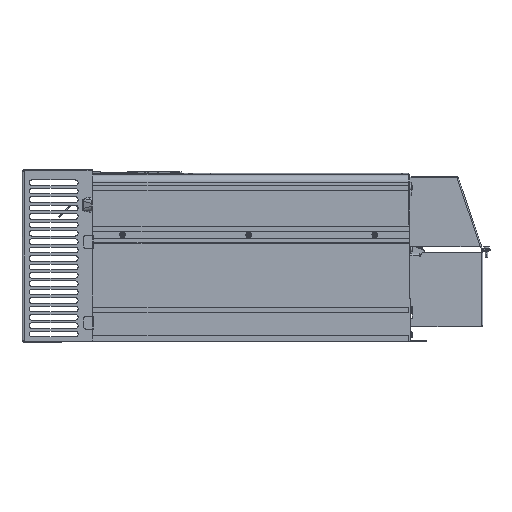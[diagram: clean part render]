
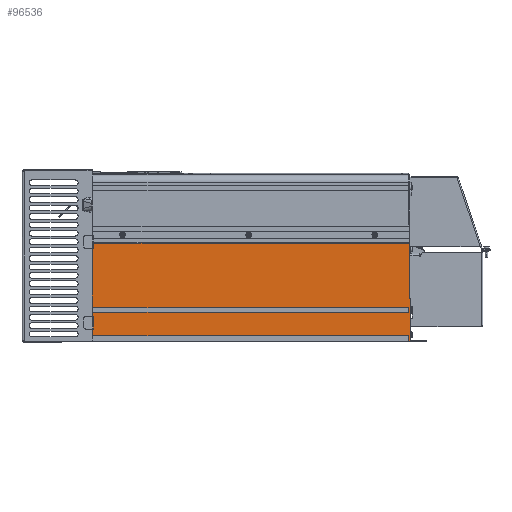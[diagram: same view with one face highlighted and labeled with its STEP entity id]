
A CAD part, left-side view. The second image highlights one B-rep face of the part: STEP entity #96536.
In plain terms, the highlighted planar face has unit normal (-1, 0, 0).
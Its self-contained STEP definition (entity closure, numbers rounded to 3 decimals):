
#3439=DIRECTION('',(0.,0.,1.));
#3440=VECTOR('',#3439,8.);
#3441=CARTESIAN_POINT('',(-115.,-227.95,1.1));
#3442=LINE('',#3441,#3440);
#3463=DIRECTION('',(0.,0.,1.));
#3464=VECTOR('',#3463,6.6);
#3465=CARTESIAN_POINT('',(-115.,-227.95,42.1));
#3466=LINE('',#3465,#3464);
#5288=DIRECTION('',(0.,-1.,0.));
#5289=VECTOR('',#5288,1.);
#5290=CARTESIAN_POINT('',(-115.,-229.45,62.5));
#5291=LINE('',#5290,#5289);
#5292=DIRECTION('',(0.,0.,-1.));
#5293=VECTOR('',#5292,60.);
#5294=CARTESIAN_POINT('',(-115.,-230.45,62.5));
#5295=LINE('',#5294,#5293);
#5296=DIRECTION('',(0.,-1.,0.));
#5297=VECTOR('',#5296,17.8);
#5298=CARTESIAN_POINT('',(-115.,-230.45,2.5));
#5299=LINE('',#5298,#5297);
#5300=DIRECTION('',(0.,0.,1.));
#5301=VECTOR('',#5300,2.5);
#5302=CARTESIAN_POINT('',(-115.,-248.25,0.));
#5303=LINE('',#5302,#5301);
#5304=DIRECTION('',(0.,0.,1.));
#5305=VECTOR('',#5304,1.);
#5306=CARTESIAN_POINT('',(-115.,211.75,0.));
#5307=LINE('',#5306,#5305);
#5308=DIRECTION('',(0.,1.,0.));
#5309=VECTOR('',#5308,12.);
#5310=CARTESIAN_POINT('',(-115.,211.75,1.));
#5311=LINE('',#5310,#5309);
#5312=DIRECTION('',(0.,0.,1.));
#5313=VECTOR('',#5312,1.);
#5314=CARTESIAN_POINT('',(-115.,223.75,0.));
#5315=LINE('',#5314,#5313);
#5316=DIRECTION('',(0.,-1.,0.));
#5317=VECTOR('',#5316,451.7);
#5318=CARTESIAN_POINT('',(-115.,223.75,1.1));
#5319=LINE('',#5318,#5317);
#5320=DIRECTION('',(0.,-1.,0.));
#5321=VECTOR('',#5320,451.7);
#5322=CARTESIAN_POINT('',(-115.,223.75,9.1));
#5323=LINE('',#5322,#5321);
#5324=DIRECTION('',(0.,0.,-1.));
#5325=VECTOR('',#5324,12.4);
#5326=CARTESIAN_POINT('',(-115.,223.75,21.5));
#5327=LINE('',#5326,#5325);
#5328=DIRECTION('',(0.,0.,-1.));
#5329=VECTOR('',#5328,8.6);
#5330=CARTESIAN_POINT('',(-115.,223.75,42.1));
#5331=LINE('',#5330,#5329);
#5332=DIRECTION('',(0.,-1.,0.));
#5333=VECTOR('',#5332,451.7);
#5334=CARTESIAN_POINT('',(-115.,223.75,42.1));
#5335=LINE('',#5334,#5333);
#5336=DIRECTION('',(0.,-1.,0.));
#5337=VECTOR('',#5336,451.7);
#5338=CARTESIAN_POINT('',(-115.,223.75,48.7));
#5339=LINE('',#5338,#5337);
#5340=DIRECTION('',(0.,0.,-1.));
#5341=VECTOR('',#5340,87.8);
#5342=CARTESIAN_POINT('',(-115.,223.75,136.5));
#5343=LINE('',#5342,#5341);
#6276=DIRECTION('',(0.,0.,-1.));
#6277=VECTOR('',#6276,12.);
#6278=CARTESIAN_POINT('',(-115.,223.75,33.5));
#6279=LINE('',#6278,#6277);
#6676=DIRECTION('',(0.,0.,1.));
#6677=VECTOR('',#6676,1.4);
#6678=CARTESIAN_POINT('',(-115.,223.75,1.1));
#6679=LINE('',#6678,#6677);
#6778=DIRECTION('',(0.,0.,-1.));
#6779=VECTOR('',#6778,4.6);
#6780=CARTESIAN_POINT('',(-115.,223.75,141.1));
#6781=LINE('',#6780,#6779);
#15797=DIRECTION('',(0.,0.,-1.));
#15798=VECTOR('',#15797,78.6);
#15799=CARTESIAN_POINT('',(-115.,-229.45,141.1));
#15800=LINE('',#15799,#15798);
#18583=DIRECTION('',(0.,1.,0.));
#18584=VECTOR('',#18583,33.);
#18585=CARTESIAN_POINT('',(-115.,226.75,2.5));
#18586=LINE('',#18585,#18584);
#18923=DIRECTION('',(0.,1.,0.));
#18924=VECTOR('',#18923,453.2);
#18925=CARTESIAN_POINT('',(-115.,-229.45,141.1));
#18926=LINE('',#18925,#18924);
#19211=DIRECTION('',(0.,1.,0.));
#19212=VECTOR('',#19211,3.);
#19213=CARTESIAN_POINT('',(-115.,223.75,2.5));
#19214=LINE('',#19213,#19212);
#40144=DIRECTION('',(0.,0.,1.));
#40145=VECTOR('',#40144,2.5);
#40146=CARTESIAN_POINT('',(-115.,259.75,0.));
#40147=LINE('',#40146,#40145);
#40204=DIRECTION('',(0.,-1.,0.));
#40205=VECTOR('',#40204,36.);
#40206=CARTESIAN_POINT('',(-115.,259.75,0.));
#40207=LINE('',#40206,#40205);
#40248=DIRECTION('',(0.,-1.,0.));
#40249=VECTOR('',#40248,460.);
#40250=CARTESIAN_POINT('',(-115.,211.75,0.));
#40251=LINE('',#40250,#40249);
#74775=CARTESIAN_POINT('',(-115.,223.75,136.5));
#74776=VERTEX_POINT('',#74775);
#74847=CARTESIAN_POINT('',(-115.,223.75,21.5));
#74849=VERTEX_POINT('',#74847);
#74851=CARTESIAN_POINT('',(-115.,223.75,33.5));
#74853=VERTEX_POINT('',#74851);
#76534=CARTESIAN_POINT('',(-115.,223.75,9.1));
#76535=VERTEX_POINT('',#76534);
#76540=CARTESIAN_POINT('',(-115.,223.75,141.1));
#76541=VERTEX_POINT('',#76540);
#76590=CARTESIAN_POINT('',(-115.,259.75,0.));
#76592=VERTEX_POINT('',#76590);
#76600=CARTESIAN_POINT('',(-115.,259.75,2.5));
#76602=VERTEX_POINT('',#76600);
#76608=CARTESIAN_POINT('',(-115.,226.75,2.5));
#76609=VERTEX_POINT('',#76608);
#76614=CARTESIAN_POINT('',(-115.,223.75,1.1));
#76615=CARTESIAN_POINT('',(-115.,223.75,2.5));
#76616=VERTEX_POINT('',#76614);
#76617=VERTEX_POINT('',#76615);
#76646=CARTESIAN_POINT('',(-115.,-227.95,1.1));
#76647=CARTESIAN_POINT('',(-115.,-227.95,9.1));
#76648=VERTEX_POINT('',#76646);
#76649=VERTEX_POINT('',#76647);
#76686=CARTESIAN_POINT('',(-115.,-248.25,2.5));
#76688=VERTEX_POINT('',#76686);
#76692=CARTESIAN_POINT('',(-115.,-248.25,0.));
#76693=VERTEX_POINT('',#76692);
#76702=CARTESIAN_POINT('',(-115.,-230.45,2.5));
#76703=VERTEX_POINT('',#76702);
#76750=CARTESIAN_POINT('',(-115.,-230.45,62.5));
#76751=VERTEX_POINT('',#76750);
#77948=CARTESIAN_POINT('',(-115.,223.75,48.7));
#77949=VERTEX_POINT('',#77948);
#77954=CARTESIAN_POINT('',(-115.,223.75,42.1));
#77955=VERTEX_POINT('',#77954);
#77964=CARTESIAN_POINT('',(-115.,-227.95,42.1));
#77965=CARTESIAN_POINT('',(-115.,-227.95,48.7));
#77966=VERTEX_POINT('',#77964);
#77967=VERTEX_POINT('',#77965);
#79568=CARTESIAN_POINT('',(-115.,211.75,1.));
#79569=CARTESIAN_POINT('',(-115.,223.75,1.));
#79570=VERTEX_POINT('',#79568);
#79571=VERTEX_POINT('',#79569);
#79572=CARTESIAN_POINT('',(-115.,211.75,0.));
#79573=VERTEX_POINT('',#79572);
#79574=CARTESIAN_POINT('',(-115.,223.75,0.));
#79575=VERTEX_POINT('',#79574);
#84938=CARTESIAN_POINT('',(-115.,-229.45,141.1));
#84939=VERTEX_POINT('',#84938);
#85006=CARTESIAN_POINT('',(-115.,-229.45,62.5));
#85008=VERTEX_POINT('',#85006);
#96480=CARTESIAN_POINT('',(-115.,223.75,227.));
#96481=DIRECTION('',(-1.,0.,0.));
#96482=DIRECTION('',(0.,0.,-1.));
#96483=AXIS2_PLACEMENT_3D('',#96480,#96481,#96482);
#96484=PLANE('',#96483);
#96486=ORIENTED_EDGE('',*,*,#96485,.F.);
#96488=ORIENTED_EDGE('',*,*,#96487,.T.);
#96490=ORIENTED_EDGE('',*,*,#96489,.T.);
#96491=ORIENTED_EDGE('',*,*,#92529,.T.);
#96493=ORIENTED_EDGE('',*,*,#96492,.T.);
#96495=ORIENTED_EDGE('',*,*,#96494,.F.);
#96497=ORIENTED_EDGE('',*,*,#96496,.F.);
#96499=ORIENTED_EDGE('',*,*,#96498,.T.);
#96501=ORIENTED_EDGE('',*,*,#96500,.T.);
#96503=ORIENTED_EDGE('',*,*,#96502,.F.);
#96505=ORIENTED_EDGE('',*,*,#96504,.F.);
#96507=ORIENTED_EDGE('',*,*,#96506,.T.);
#96509=ORIENTED_EDGE('',*,*,#96508,.F.);
#96511=ORIENTED_EDGE('',*,*,#96510,.F.);
#96513=ORIENTED_EDGE('',*,*,#96512,.F.);
#96515=ORIENTED_EDGE('',*,*,#96514,.T.);
#96516=ORIENTED_EDGE('',*,*,#92760,.T.);
#96518=ORIENTED_EDGE('',*,*,#96517,.F.);
#96520=ORIENTED_EDGE('',*,*,#96519,.F.);
#96522=ORIENTED_EDGE('',*,*,#96521,.F.);
#96524=ORIENTED_EDGE('',*,*,#96523,.F.);
#96526=ORIENTED_EDGE('',*,*,#96525,.T.);
#96527=ORIENTED_EDGE('',*,*,#92806,.T.);
#96529=ORIENTED_EDGE('',*,*,#96528,.F.);
#96531=ORIENTED_EDGE('',*,*,#96530,.F.);
#96533=ORIENTED_EDGE('',*,*,#96532,.F.);
#96534=EDGE_LOOP('',(#96486,#96488,#96490,#96491,#96493,#96495,#96497,#96499,
#96501,#96503,#96505,#96507,#96509,#96511,#96513,#96515,#96516,#96518,#96520,
#96522,#96524,#96526,#96527,#96529,#96531,#96533));
#96535=FACE_OUTER_BOUND('',#96534,.F.);
#96536=ADVANCED_FACE('',(#96535),#96484,.T.);
#92529=EDGE_CURVE('',#76751,#76703,#5295,.T.);
#92760=EDGE_CURVE('',#76648,#76649,#3442,.T.);
#92806=EDGE_CURVE('',#77966,#77967,#3466,.T.);
#96485=EDGE_CURVE('',#84939,#76541,#18926,.T.);
#96487=EDGE_CURVE('',#84939,#85008,#15800,.T.);
#96489=EDGE_CURVE('',#85008,#76751,#5291,.T.);
#96492=EDGE_CURVE('',#76703,#76688,#5299,.T.);
#96494=EDGE_CURVE('',#76693,#76688,#5303,.T.);
#96496=EDGE_CURVE('',#79573,#76693,#40251,.T.);
#96498=EDGE_CURVE('',#79573,#79570,#5307,.T.);
#96500=EDGE_CURVE('',#79570,#79571,#5311,.T.);
#96502=EDGE_CURVE('',#79575,#79571,#5315,.T.);
#96504=EDGE_CURVE('',#76592,#79575,#40207,.T.);
#96506=EDGE_CURVE('',#76592,#76602,#40147,.T.);
#96508=EDGE_CURVE('',#76609,#76602,#18586,.T.);
#96510=EDGE_CURVE('',#76617,#76609,#19214,.T.);
#96512=EDGE_CURVE('',#76616,#76617,#6679,.T.);
#96514=EDGE_CURVE('',#76616,#76648,#5319,.T.);
#96517=EDGE_CURVE('',#76535,#76649,#5323,.T.);
#96519=EDGE_CURVE('',#74849,#76535,#5327,.T.);
#96521=EDGE_CURVE('',#74853,#74849,#6279,.T.);
#96523=EDGE_CURVE('',#77955,#74853,#5331,.T.);
#96525=EDGE_CURVE('',#77955,#77966,#5335,.T.);
#96528=EDGE_CURVE('',#77949,#77967,#5339,.T.);
#96530=EDGE_CURVE('',#74776,#77949,#5343,.T.);
#96532=EDGE_CURVE('',#76541,#74776,#6781,.T.);
